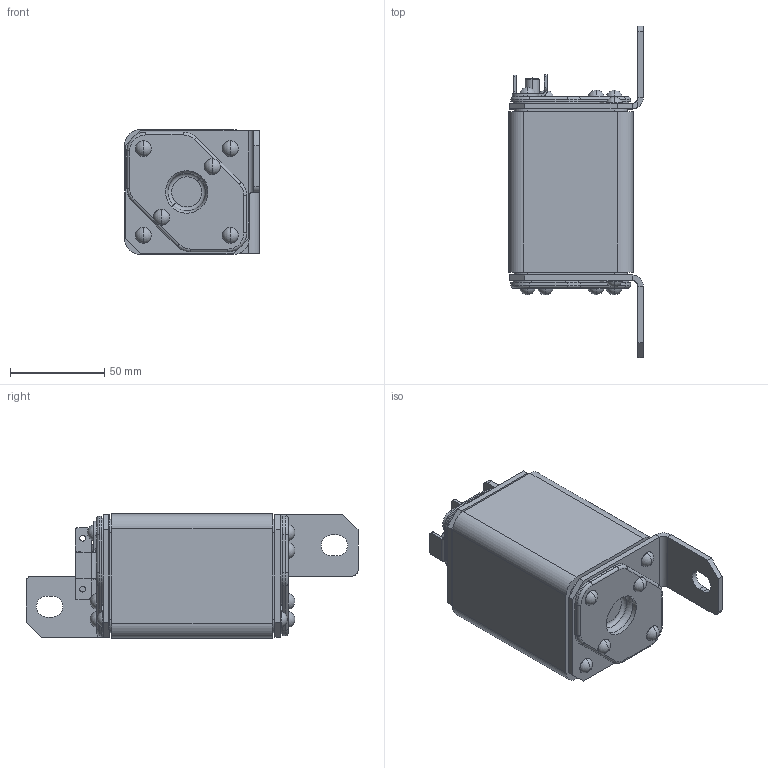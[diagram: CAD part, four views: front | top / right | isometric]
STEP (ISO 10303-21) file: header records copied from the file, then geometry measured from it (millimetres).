
FILE_DESCRIPTION (( 'STEP AP214' ), '1' );
FILE_NAME ('砎槼隰譇膻蠈錪 珫57-37972-XXXA-XXXX-忡曖.STEP', '2023-05-11T12:23:47', ( '' ), ( '' ), 'SwSTEP 2.0', 'SolidWorks 2018', '' );
FILE_SCHEMA (( 'AUTOMOTIVE_DESIGN' ));
Length unit declared in the file: millimetre
Products named in the file (1): 砎槼隰譇膻蠈錪 珫57-37972-XXXA-XXXX-忡曖
Bounding box: 71.5 x 176 x 66 mm (x, y, z)
Volume: 424395.5 mm3; surface area: 53904 mm2
Topology: 1 solids, 15 shells, 699 faces, 1700 edges, 1059 vertices
Faces by surface type: plane 335, cylinder 258, torus 62, sphere 24, cone 20
Entity records: 28971 total; most frequent: CARTESIAN_POINT 4321, DIRECTION 3745, ORIENTED_EDGE 3400, EDGE_CURVE 1700, AXIS2_PLACEMENT_3D 1417, VERTEX_POINT 1059, VECTOR 911, LINE 911
